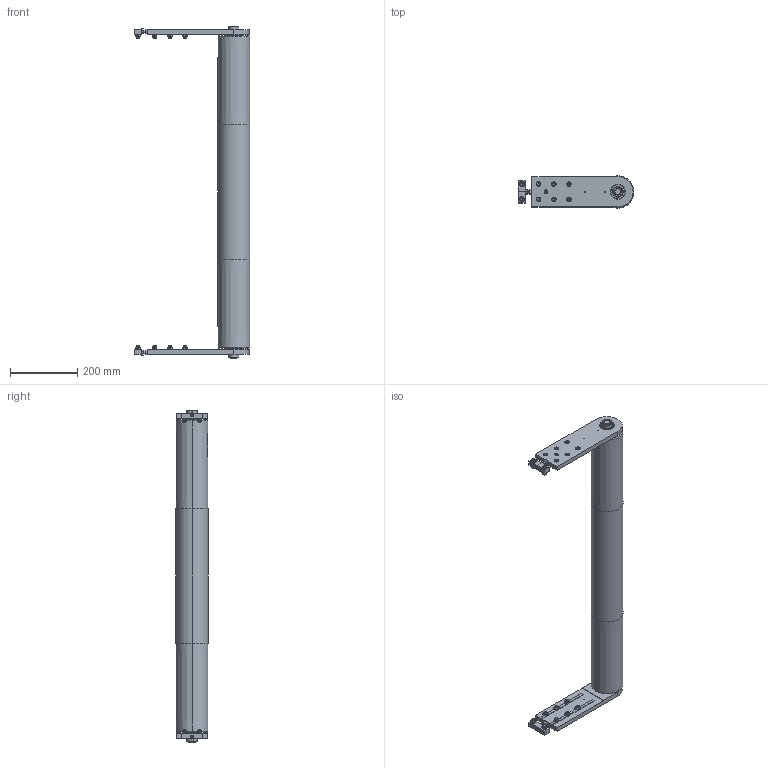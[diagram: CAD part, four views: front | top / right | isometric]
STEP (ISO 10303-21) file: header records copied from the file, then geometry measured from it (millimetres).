
FILE_DESCRIPTION (( 'STEP AP203' ), '1' );
FILE_NAME ('084.095.KI.900.STEP', '2015-11-12T10:06:22', ( '' ), ( '' ), 'SwSTEP 2.0', 'SolidWorks 2012', '' );
FILE_SCHEMA (( 'CONFIG_CONTROL_DESIGN' ));
Length unit declared in the file: millimetre
Products named in the file (1): 084.095.KI.900
Bounding box: 343.5 x 95 x 985 mm (x, y, z)
Surface area: 464000.4 mm2 (no closed solid volume)
Topology: 0 solids, 66 shells, 642 faces, 1910 edges, 1324 vertices
Faces by surface type: plane 402, cylinder 118, torus 60, cone 50, bspline 8, sphere 4
Entity records: 22572 total; most frequent: CARTESIAN_POINT 5441, DIRECTION 3600, ORIENTED_EDGE 3178, EDGE_CURVE 1902, VERTEX_POINT 1320, AXIS2_PLACEMENT_3D 1287, LINE 1026, VECTOR 1026
